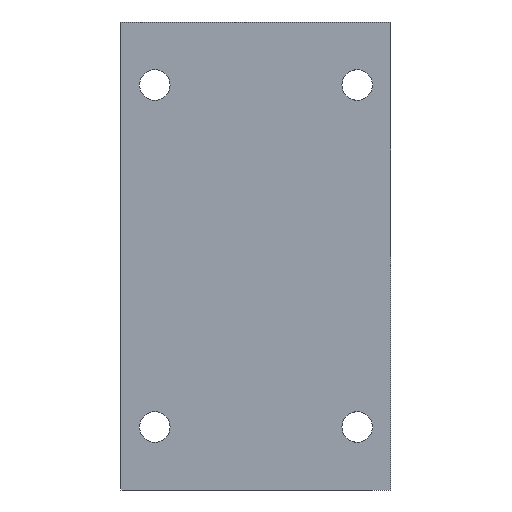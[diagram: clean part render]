
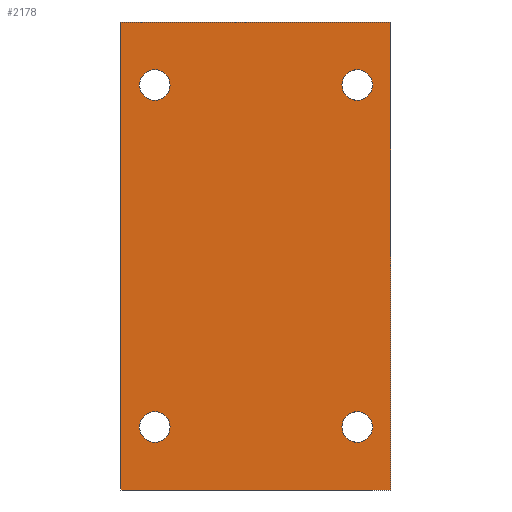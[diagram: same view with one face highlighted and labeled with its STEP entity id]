
A CAD part, front view. The second image highlights one B-rep face of the part: STEP entity #2178.
In plain terms, the highlighted planar face has unit normal (0, -1, 0).
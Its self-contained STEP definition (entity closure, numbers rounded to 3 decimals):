
#32 = EDGE_CURVE ( 'NONE', #1187, #2446, #1660, .T. ) ;
#41 = CARTESIAN_POINT ( 'NONE',  ( -22.5, -21., -41.4 ) ) ;
#145 = ORIENTED_EDGE ( 'NONE', *, *, #2871, .F. ) ;
#167 = VECTOR ( 'NONE', #1601, 1000. ) ;
#180 = AXIS2_PLACEMENT_3D ( 'NONE', #1494, #528, #2746 ) ;
#192 = EDGE_LOOP ( 'NONE', ( #1811, #1008 ) ) ;
#270 = DIRECTION ( 'NONE',  ( 0., -1., 0. ) ) ;
#299 = EDGE_CURVE ( 'NONE', #3179, #1689, #2653, .T. ) ;
#323 = EDGE_CURVE ( 'NONE', #2446, #1187, #340, .T. ) ;
#340 = CIRCLE ( 'NONE', #1424, 3.4 ) ;
#360 = CARTESIAN_POINT ( 'NONE',  ( 22.5, -21., -38. ) ) ;
#379 = CARTESIAN_POINT ( 'NONE',  ( -30., -21., 52. ) ) ;
#390 = CARTESIAN_POINT ( 'NONE',  ( -22.5, -21., -38. ) ) ;
#443 = EDGE_CURVE ( 'NONE', #2260, #3186, #579, .T. ) ;
#445 = ORIENTED_EDGE ( 'NONE', *, *, #1436, .T. ) ;
#480 = CIRCLE ( 'NONE', #597, 3.4 ) ;
#515 = ORIENTED_EDGE ( 'NONE', *, *, #973, .F. ) ;
#528 = DIRECTION ( 'NONE',  ( 0., -1., 0. ) ) ;
#535 = CARTESIAN_POINT ( 'NONE',  ( 22.5, -21., -41.4 ) ) ;
#562 = CARTESIAN_POINT ( 'NONE',  ( -22.5, -21., 41.4 ) ) ;
#577 = CARTESIAN_POINT ( 'NONE',  ( 30., -21., 52. ) ) ;
#579 = LINE ( 'NONE', #379, #167 ) ;
#591 = DIRECTION ( 'NONE',  ( 0., -1., 0. ) ) ;
#597 = AXIS2_PLACEMENT_3D ( 'NONE', #360, #812, #1054 ) ;
#623 = FACE_BOUND ( 'NONE', #192, .T. ) ;
#627 = ORIENTED_EDGE ( 'NONE', *, *, #323, .F. ) ;
#751 = EDGE_CURVE ( 'NONE', #1738, #1700, #480, .T. ) ;
#766 = EDGE_LOOP ( 'NONE', ( #627, #2588 ) ) ;
#776 = CARTESIAN_POINT ( 'NONE',  ( -22.5, -21., -38. ) ) ;
#812 = DIRECTION ( 'NONE',  ( 0., -1., 0. ) ) ;
#853 = FACE_OUTER_BOUND ( 'NONE', #1616, .T. ) ;
#857 = CARTESIAN_POINT ( 'NONE',  ( 22.5, -21., -38. ) ) ;
#886 = PLANE ( 'NONE',  #1283 ) ;
#905 = CARTESIAN_POINT ( 'NONE',  ( -30., -21., -52. ) ) ;
#920 = CIRCLE ( 'NONE', #180, 3.4 ) ;
#921 = VERTEX_POINT ( 'NONE', #1617 ) ;
#927 = EDGE_CURVE ( 'NONE', #1700, #1738, #3146, .T. ) ;
#929 = DIRECTION ( 'NONE',  ( 1., 0., 0. ) ) ;
#939 = CARTESIAN_POINT ( 'NONE',  ( -22.5, -21., 34.6 ) ) ;
#973 = EDGE_CURVE ( 'NONE', #2966, #921, #1839, .T. ) ;
#1008 = ORIENTED_EDGE ( 'NONE', *, *, #2894, .F. ) ;
#1032 = DIRECTION ( 'NONE',  ( 0., -1., 0. ) ) ;
#1054 = DIRECTION ( 'NONE',  ( 0., 0., -1. ) ) ;
#1118 = ORIENTED_EDGE ( 'NONE', *, *, #1632, .F. ) ;
#1142 = DIRECTION ( 'NONE',  ( 0., -1., 0. ) ) ;
#1166 = VECTOR ( 'NONE', #1848, 1000. ) ;
#1187 = VERTEX_POINT ( 'NONE', #1820 ) ;
#1232 = CARTESIAN_POINT ( 'NONE',  ( 30., -21., 52. ) ) ;
#1235 = AXIS2_PLACEMENT_3D ( 'NONE', #2562, #1270, #1780 ) ;
#1242 = DIRECTION ( 'NONE',  ( 0., 0., -1. ) ) ;
#1270 = DIRECTION ( 'NONE',  ( 0., -1., 0. ) ) ;
#1283 = AXIS2_PLACEMENT_3D ( 'NONE', #2098, #3081, #1612 ) ;
#1303 = VERTEX_POINT ( 'NONE', #41 ) ;
#1331 = CIRCLE ( 'NONE', #3161, 3.4 ) ;
#1337 = CARTESIAN_POINT ( 'NONE',  ( -30., -21., -52. ) ) ;
#1390 = DIRECTION ( 'NONE',  ( 0., 0., -1. ) ) ;
#1424 = AXIS2_PLACEMENT_3D ( 'NONE', #1503, #3250, #1242 ) ;
#1435 = ORIENTED_EDGE ( 'NONE', *, *, #751, .F. ) ;
#1436 = EDGE_CURVE ( 'NONE', #3186, #921, #2123, .T. ) ;
#1478 = AXIS2_PLACEMENT_3D ( 'NONE', #857, #591, #1598 ) ;
#1494 = CARTESIAN_POINT ( 'NONE',  ( -22.5, -21., 38. ) ) ;
#1503 = CARTESIAN_POINT ( 'NONE',  ( 22.5, -21., 38. ) ) ;
#1516 = CARTESIAN_POINT ( 'NONE',  ( 22.5, -21., -34.6 ) ) ;
#1522 = DIRECTION ( 'NONE',  ( 0., 0., -1. ) ) ;
#1535 = CARTESIAN_POINT ( 'NONE',  ( 22.5, -21., 38. ) ) ;
#1598 = DIRECTION ( 'NONE',  ( 0., 0., -1. ) ) ;
#1601 = DIRECTION ( 'NONE',  ( 0., 0., -1. ) ) ;
#1612 = DIRECTION ( 'NONE',  ( 0., 0., 1. ) ) ;
#1616 = EDGE_LOOP ( 'NONE', ( #445, #515, #1999, #1952 ) ) ;
#1617 = CARTESIAN_POINT ( 'NONE',  ( 30., -21., -52. ) ) ;
#1632 = EDGE_CURVE ( 'NONE', #1303, #1684, #2751, .T. ) ;
#1660 = CIRCLE ( 'NONE', #1829, 3.4 ) ;
#1684 = VERTEX_POINT ( 'NONE', #1815 ) ;
#1689 = VERTEX_POINT ( 'NONE', #562 ) ;
#1694 = CARTESIAN_POINT ( 'NONE',  ( -30., -21., 52. ) ) ;
#1700 = VERTEX_POINT ( 'NONE', #1516 ) ;
#1738 = VERTEX_POINT ( 'NONE', #535 ) ;
#1780 = DIRECTION ( 'NONE',  ( 0., 0., -1. ) ) ;
#1811 = ORIENTED_EDGE ( 'NONE', *, *, #299, .F. ) ;
#1815 = CARTESIAN_POINT ( 'NONE',  ( -22.5, -21., -34.6 ) ) ;
#1820 = CARTESIAN_POINT ( 'NONE',  ( 22.5, -21., 41.4 ) ) ;
#1829 = AXIS2_PLACEMENT_3D ( 'NONE', #1535, #1032, #2546 ) ;
#1839 = LINE ( 'NONE', #577, #2803 ) ;
#1848 = DIRECTION ( 'NONE',  ( 1., 0., 0. ) ) ;
#1943 = CARTESIAN_POINT ( 'NONE',  ( -30., -21., 52. ) ) ;
#1947 = ORIENTED_EDGE ( 'NONE', *, *, #927, .F. ) ;
#1952 = ORIENTED_EDGE ( 'NONE', *, *, #443, .T. ) ;
#1982 = LINE ( 'NONE', #1943, #2344 ) ;
#1999 = ORIENTED_EDGE ( 'NONE', *, *, #2576, .F. ) ;
#2000 = CARTESIAN_POINT ( 'NONE',  ( 22.5, -21., 34.6 ) ) ;
#2098 = CARTESIAN_POINT ( 'NONE',  ( -30., -21., 52. ) ) ;
#2123 = LINE ( 'NONE', #1337, #1166 ) ;
#2154 = DIRECTION ( 'NONE',  ( 0., 0., -1. ) ) ;
#2174 = AXIS2_PLACEMENT_3D ( 'NONE', #776, #270, #1522 ) ;
#2178 = ADVANCED_FACE ( 'NONE', ( #2876, #3092, #853, #623, #2889 ), #886, .F. ) ;
#2209 = EDGE_LOOP ( 'NONE', ( #1118, #145 ) ) ;
#2260 = VERTEX_POINT ( 'NONE', #1694 ) ;
#2344 = VECTOR ( 'NONE', #929, 1000. ) ;
#2446 = VERTEX_POINT ( 'NONE', #2000 ) ;
#2546 = DIRECTION ( 'NONE',  ( 0., 0., -1. ) ) ;
#2562 = CARTESIAN_POINT ( 'NONE',  ( -22.5, -21., 38. ) ) ;
#2576 = EDGE_CURVE ( 'NONE', #2260, #2966, #1982, .T. ) ;
#2588 = ORIENTED_EDGE ( 'NONE', *, *, #32, .F. ) ;
#2653 = CIRCLE ( 'NONE', #1235, 3.4 ) ;
#2746 = DIRECTION ( 'NONE',  ( 0., 0., -1. ) ) ;
#2747 = EDGE_LOOP ( 'NONE', ( #1435, #1947 ) ) ;
#2751 = CIRCLE ( 'NONE', #2174, 3.4 ) ;
#2803 = VECTOR ( 'NONE', #1390, 1000. ) ;
#2871 = EDGE_CURVE ( 'NONE', #1684, #1303, #1331, .T. ) ;
#2876 = FACE_BOUND ( 'NONE', #766, .T. ) ;
#2889 = FACE_BOUND ( 'NONE', #2209, .T. ) ;
#2894 = EDGE_CURVE ( 'NONE', #1689, #3179, #920, .T. ) ;
#2966 = VERTEX_POINT ( 'NONE', #1232 ) ;
#3081 = DIRECTION ( 'NONE',  ( 0., 1., 0. ) ) ;
#3092 = FACE_BOUND ( 'NONE', #2747, .T. ) ;
#3146 = CIRCLE ( 'NONE', #1478, 3.4 ) ;
#3161 = AXIS2_PLACEMENT_3D ( 'NONE', #390, #1142, #2154 ) ;
#3179 = VERTEX_POINT ( 'NONE', #939 ) ;
#3186 = VERTEX_POINT ( 'NONE', #905 ) ;
#3250 = DIRECTION ( 'NONE',  ( 0., -1., 0. ) ) ;
